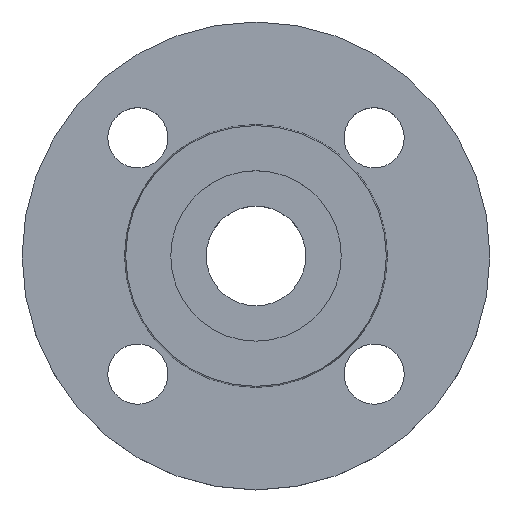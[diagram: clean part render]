
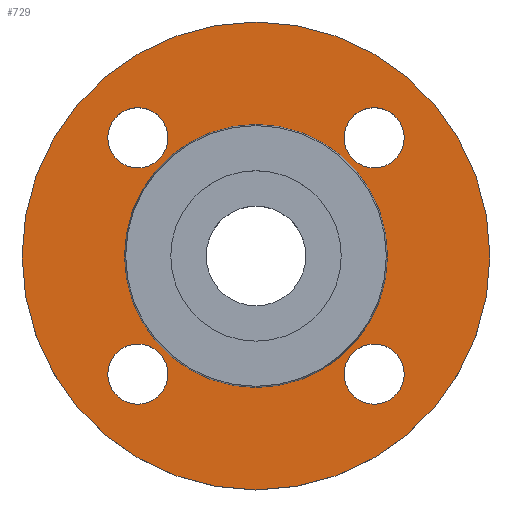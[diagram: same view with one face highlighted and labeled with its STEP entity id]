
A CAD part, top view. The second image highlights one B-rep face of the part: STEP entity #729.
In plain terms, the highlighted planar face has unit normal (0, 0, 1).
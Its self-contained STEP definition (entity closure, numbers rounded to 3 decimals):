
#6 = CIRCLE ( 'NONE', #777, 9. ) ;
#20 = FACE_BOUND ( 'NONE', #388, .T. ) ;
#23 = ORIENTED_EDGE ( 'NONE', *, *, #214, .T. ) ;
#25 = CARTESIAN_POINT ( 'NONE',  ( 35.355, 35.355, -2. ) ) ;
#34 = EDGE_CURVE ( 'NONE', #463, #197, #532, .T. ) ;
#47 = EDGE_CURVE ( 'NONE', #150, #204, #425, .T. ) ;
#50 = CARTESIAN_POINT ( 'NONE',  ( 35.355, -35.355, -2. ) ) ;
#53 = VERTEX_POINT ( 'NONE', #526 ) ;
#63 = AXIS2_PLACEMENT_3D ( 'NONE', #151, #399, #650 ) ;
#76 = VERTEX_POINT ( 'NONE', #191 ) ;
#99 = DIRECTION ( 'NONE',  ( 0., 0., -1. ) ) ;
#101 = ORIENTED_EDGE ( 'NONE', *, *, #418, .T. ) ;
#103 = DIRECTION ( 'NONE',  ( 1., 0., 0. ) ) ;
#108 = VERTEX_POINT ( 'NONE', #691 ) ;
#109 = ORIENTED_EDGE ( 'NONE', *, *, #506, .T. ) ;
#118 = CIRCLE ( 'NONE', #574, 39.353 ) ;
#119 = EDGE_CURVE ( 'NONE', #332, #705, #6, .T. ) ;
#138 = DIRECTION ( 'NONE',  ( 1., 0., 0. ) ) ;
#150 = VERTEX_POINT ( 'NONE', #530 ) ;
#151 = CARTESIAN_POINT ( 'NONE',  ( 35.355, 35.355, -2. ) ) ;
#152 = DIRECTION ( 'NONE',  ( 0., 0., 1. ) ) ;
#163 = AXIS2_PLACEMENT_3D ( 'NONE', #50, #310, #559 ) ;
#170 = CIRCLE ( 'NONE', #196, 9. ) ;
#179 = DIRECTION ( 'NONE',  ( 1., 0., 0. ) ) ;
#191 = CARTESIAN_POINT ( 'NONE',  ( -44.355, 35.355, -2. ) ) ;
#192 = DIRECTION ( 'NONE',  ( -1., 0., 0. ) ) ;
#193 = EDGE_CURVE ( 'NONE', #108, #356, #170, .T. ) ;
#196 = AXIS2_PLACEMENT_3D ( 'NONE', #665, #99, #351 ) ;
#197 = VERTEX_POINT ( 'NONE', #600 ) ;
#204 = VERTEX_POINT ( 'NONE', #785 ) ;
#208 = DIRECTION ( 'NONE',  ( -1., 0., 0. ) ) ;
#211 = DIRECTION ( 'NONE',  ( 1., 0., 0. ) ) ;
#214 = EDGE_CURVE ( 'NONE', #705, #332, #778, .T. ) ;
#215 = DIRECTION ( 'NONE',  ( 0., 0., -1. ) ) ;
#216 = FACE_OUTER_BOUND ( 'NONE', #382, .T. ) ;
#230 = AXIS2_PLACEMENT_3D ( 'NONE', #416, #667, #103 ) ;
#248 = DIRECTION ( 'NONE',  ( 0., 0., -1. ) ) ;
#264 = CARTESIAN_POINT ( 'NONE',  ( 70., 0., -2. ) ) ;
#265 = AXIS2_PLACEMENT_3D ( 'NONE', #796, #248, #493 ) ;
#270 = EDGE_CURVE ( 'NONE', #687, #76, #793, .T. ) ;
#276 = FACE_BOUND ( 'NONE', #799, .T. ) ;
#282 = DIRECTION ( 'NONE',  ( 0., 0., -1. ) ) ;
#287 = AXIS2_PLACEMENT_3D ( 'NONE', #25, #282, #525 ) ;
#310 = DIRECTION ( 'NONE',  ( 0., 0., -1. ) ) ;
#316 = ORIENTED_EDGE ( 'NONE', *, *, #34, .F. ) ;
#319 = AXIS2_PLACEMENT_3D ( 'NONE', #762, #215, #459 ) ;
#332 = VERTEX_POINT ( 'NONE', #679 ) ;
#347 = EDGE_CURVE ( 'NONE', #356, #108, #509, .T. ) ;
#351 = DIRECTION ( 'NONE',  ( 1., 0., 0. ) ) ;
#353 = EDGE_CURVE ( 'NONE', #197, #463, #613, .T. ) ;
#354 = CIRCLE ( 'NONE', #801, 9. ) ;
#356 = VERTEX_POINT ( 'NONE', #739 ) ;
#371 = ORIENTED_EDGE ( 'NONE', *, *, #119, .T. ) ;
#382 = EDGE_LOOP ( 'NONE', ( #316, #517 ) ) ;
#388 = EDGE_LOOP ( 'NONE', ( #23, #371 ) ) ;
#393 = CARTESIAN_POINT ( 'NONE',  ( -26.355, -35.355, -2. ) ) ;
#399 = DIRECTION ( 'NONE',  ( 0., 0., -1. ) ) ;
#401 = DIRECTION ( 'NONE',  ( 1., 0., 0. ) ) ;
#416 = CARTESIAN_POINT ( 'NONE',  ( -35.355, -35.355, -2. ) ) ;
#418 = EDGE_CURVE ( 'NONE', #450, #53, #781, .T. ) ;
#425 = CIRCLE ( 'NONE', #63, 9. ) ;
#432 = AXIS2_PLACEMENT_3D ( 'NONE', #500, #746, #192 ) ;
#445 = AXIS2_PLACEMENT_3D ( 'NONE', #490, #735, #179 ) ;
#448 = CARTESIAN_POINT ( 'NONE',  ( -35.355, 35.355, -2. ) ) ;
#450 = VERTEX_POINT ( 'NONE', #634 ) ;
#459 = DIRECTION ( 'NONE',  ( -1., 0., 0. ) ) ;
#461 = PLANE ( 'NONE',  #782 ) ;
#462 = ORIENTED_EDGE ( 'NONE', *, *, #47, .T. ) ;
#463 = VERTEX_POINT ( 'NONE', #264 ) ;
#470 = EDGE_CURVE ( 'NONE', #76, #687, #354, .T. ) ;
#490 = CARTESIAN_POINT ( 'NONE',  ( -35.355, 35.355, -2. ) ) ;
#493 = DIRECTION ( 'NONE',  ( -1., 0., 0. ) ) ;
#500 = CARTESIAN_POINT ( 'NONE',  ( 0., 0., -2. ) ) ;
#506 = EDGE_CURVE ( 'NONE', #204, #150, #628, .T. ) ;
#509 = CIRCLE ( 'NONE', #163, 9. ) ;
#517 = ORIENTED_EDGE ( 'NONE', *, *, #353, .F. ) ;
#518 = CARTESIAN_POINT ( 'NONE',  ( -35.355, -35.355, -2. ) ) ;
#522 = FACE_BOUND ( 'NONE', #761, .T. ) ;
#525 = DIRECTION ( 'NONE',  ( 1., 0., 0. ) ) ;
#526 = CARTESIAN_POINT ( 'NONE',  ( 39.353, 0., -2. ) ) ;
#530 = CARTESIAN_POINT ( 'NONE',  ( 26.355, 35.355, -2. ) ) ;
#532 = CIRCLE ( 'NONE', #319, 70. ) ;
#559 = DIRECTION ( 'NONE',  ( 1., 0., 0. ) ) ;
#574 = AXIS2_PLACEMENT_3D ( 'NONE', #575, #757, #208 ) ;
#575 = CARTESIAN_POINT ( 'NONE',  ( 0., 0., -2. ) ) ;
#579 = ORIENTED_EDGE ( 'NONE', *, *, #193, .T. ) ;
#581 = FACE_BOUND ( 'NONE', #712, .T. ) ;
#600 = CARTESIAN_POINT ( 'NONE',  ( -70., 0., -2. ) ) ;
#613 = CIRCLE ( 'NONE', #265, 70. ) ;
#628 = CIRCLE ( 'NONE', #287, 9. ) ;
#634 = CARTESIAN_POINT ( 'NONE',  ( -39.353, 0., -2. ) ) ;
#635 = EDGE_LOOP ( 'NONE', ( #101, #756 ) ) ;
#637 = CARTESIAN_POINT ( 'NONE',  ( -26.355, 35.355, -2. ) ) ;
#638 = ORIENTED_EDGE ( 'NONE', *, *, #470, .T. ) ;
#650 = DIRECTION ( 'NONE',  ( 1., 0., 0. ) ) ;
#665 = CARTESIAN_POINT ( 'NONE',  ( 35.355, -35.355, -2. ) ) ;
#667 = DIRECTION ( 'NONE',  ( 0., 0., -1. ) ) ;
#679 = CARTESIAN_POINT ( 'NONE',  ( -44.355, -35.355, -2. ) ) ;
#687 = VERTEX_POINT ( 'NONE', #637 ) ;
#691 = CARTESIAN_POINT ( 'NONE',  ( 44.355, -35.355, -2. ) ) ;
#692 = EDGE_CURVE ( 'NONE', #53, #450, #118, .T. ) ;
#693 = ORIENTED_EDGE ( 'NONE', *, *, #347, .T. ) ;
#698 = DIRECTION ( 'NONE',  ( 0., 0., -1. ) ) ;
#705 = VERTEX_POINT ( 'NONE', #393 ) ;
#711 = CARTESIAN_POINT ( 'NONE',  ( 39.353, 0., -2. ) ) ;
#712 = EDGE_LOOP ( 'NONE', ( #579, #693 ) ) ;
#716 = ORIENTED_EDGE ( 'NONE', *, *, #270, .T. ) ;
#729 = ADVANCED_FACE ( 'NONE', ( #581, #20, #276, #522, #763, #216 ), #461, .T. ) ;
#735 = DIRECTION ( 'NONE',  ( 0., 0., -1. ) ) ;
#739 = CARTESIAN_POINT ( 'NONE',  ( 26.355, -35.355, -2. ) ) ;
#746 = DIRECTION ( 'NONE',  ( 0., 0., -1. ) ) ;
#756 = ORIENTED_EDGE ( 'NONE', *, *, #692, .T. ) ;
#757 = DIRECTION ( 'NONE',  ( 0., 0., -1. ) ) ;
#759 = DIRECTION ( 'NONE',  ( 0., 0., -1. ) ) ;
#761 = EDGE_LOOP ( 'NONE', ( #109, #462 ) ) ;
#762 = CARTESIAN_POINT ( 'NONE',  ( 0., 0., -2. ) ) ;
#763 = FACE_BOUND ( 'NONE', #635, .T. ) ;
#777 = AXIS2_PLACEMENT_3D ( 'NONE', #518, #759, #211 ) ;
#778 = CIRCLE ( 'NONE', #230, 9. ) ;
#781 = CIRCLE ( 'NONE', #432, 39.353 ) ;
#782 = AXIS2_PLACEMENT_3D ( 'NONE', #711, #152, #401 ) ;
#785 = CARTESIAN_POINT ( 'NONE',  ( 44.355, 35.355, -2. ) ) ;
#793 = CIRCLE ( 'NONE', #445, 9. ) ;
#796 = CARTESIAN_POINT ( 'NONE',  ( 0., 0., -2. ) ) ;
#799 = EDGE_LOOP ( 'NONE', ( #716, #638 ) ) ;
#801 = AXIS2_PLACEMENT_3D ( 'NONE', #448, #698, #138 ) ;
